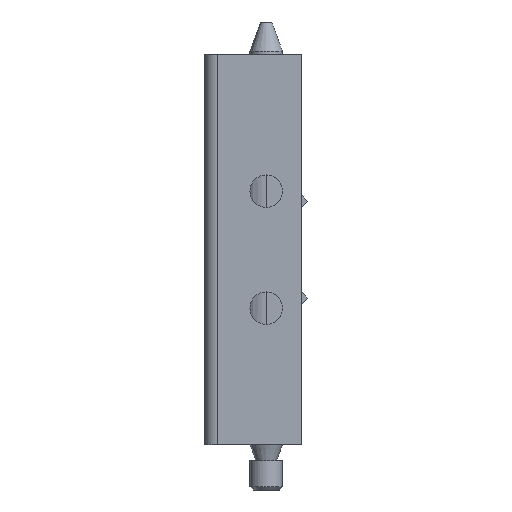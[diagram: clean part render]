
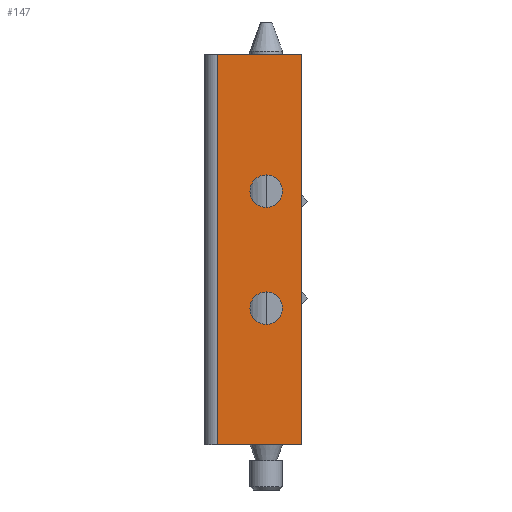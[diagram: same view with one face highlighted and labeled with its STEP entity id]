
A CAD part, front view. The second image highlights one B-rep face of the part: STEP entity #147.
In plain terms, the highlighted planar face has unit normal (0, -1, 0).
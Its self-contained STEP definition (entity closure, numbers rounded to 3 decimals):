
#97 = EDGE_LOOP ( 'NONE', ( #170, #145 ) ) ;
#127 = ORIENTED_EDGE ( 'NONE', *, *, #204, .F. ) ;
#129 = ORIENTED_EDGE ( 'NONE', *, *, #146, .F. ) ;
#131 = VERTEX_POINT ( 'NONE', #11772 ) ;
#133 = ORIENTED_EDGE ( 'NONE', *, *, #13769, .F. ) ;
#139 = EDGE_LOOP ( 'NONE', ( #199, #129 ) ) ;
#145 = ORIENTED_EDGE ( 'NONE', *, *, #168, .F. ) ;
#146 = EDGE_CURVE ( 'NONE', #11476, #11475, #11815, .T. ) ;
#147 = ADVANCED_FACE ( 'NONE', ( #11807, #11822, #11805 ), #11823, .F. ) ;
#168 = EDGE_CURVE ( 'NONE', #11470, #11471, #11894, .T. ) ;
#170 = ORIENTED_EDGE ( 'NONE', *, *, #11519, .F. ) ;
#184 = EDGE_CURVE ( 'NONE', #13762, #13781, #11868, .T. ) ;
#195 = EDGE_CURVE ( 'NONE', #13781, #131, #11920, .T. ) ;
#199 = ORIENTED_EDGE ( 'NONE', *, *, #11463, .F. ) ;
#204 = EDGE_CURVE ( 'NONE', #13752, #131, #11897, .T. ) ;
#205 = ORIENTED_EDGE ( 'NONE', *, *, #195, .T. ) ;
#209 = EDGE_LOOP ( 'NONE', ( #205, #127, #133, #233 ) ) ;
#233 = ORIENTED_EDGE ( 'NONE', *, *, #184, .T. ) ;
#6474 = CARTESIAN_POINT ( 'NONE',  ( -5.5, -1.5, 18.5 ) ) ;
#6488 = CARTESIAN_POINT ( 'NONE',  ( -5.5, -1.5, 23.5 ) ) ;
#6517 = DIRECTION ( 'NONE',  ( 1., 0., 0. ) ) ;
#6518 = DIRECTION ( 'NONE',  ( 0., -1., 0. ) ) ;
#6519 = CARTESIAN_POINT ( 'NONE',  ( -5.5, -1.5, 39. ) ) ;
#6520 = AXIS2_PLACEMENT_3D ( 'NONE', #6519, #6518, #6517 ) ;
#6521 = CIRCLE ( 'NONE', #6520, 2.5 ) ;
#6563 = CARTESIAN_POINT ( 'NONE',  ( -5.5, -1.5, 36.5 ) ) ;
#6564 = CARTESIAN_POINT ( 'NONE',  ( -5.5, -1.5, 41.5 ) ) ;
#6599 = DIRECTION ( 'NONE',  ( -1., 0., 0. ) ) ;
#6600 = DIRECTION ( 'NONE',  ( 0., -1., 0. ) ) ;
#6601 = CARTESIAN_POINT ( 'NONE',  ( -5.5, -1.5, 21. ) ) ;
#6607 = AXIS2_PLACEMENT_3D ( 'NONE', #6601, #6600, #6599 ) ;
#6611 = CIRCLE ( 'NONE', #6607, 2.5 ) ;
#9133 = DIRECTION ( 'NONE',  ( 1., 0., 0. ) ) ;
#9134 = VECTOR ( 'NONE', #9133, 1000. ) ;
#9135 = CARTESIAN_POINT ( 'NONE',  ( 0., -1.5, 60. ) ) ;
#9136 = LINE ( 'NONE', #9135, #9134 ) ;
#9410 = CARTESIAN_POINT ( 'NONE',  ( -13., -1.5, 60. ) ) ;
#9416 = CARTESIAN_POINT ( 'NONE',  ( 0., -1.5, 60. ) ) ;
#9446 = CARTESIAN_POINT ( 'NONE',  ( -13., -1.5, 0. ) ) ;
#11463 = EDGE_CURVE ( 'NONE', #11475, #11476, #6521, .T. ) ;
#11470 = VERTEX_POINT ( 'NONE', #6474 ) ;
#11471 = VERTEX_POINT ( 'NONE', #6488 ) ;
#11475 = VERTEX_POINT ( 'NONE', #6564 ) ;
#11476 = VERTEX_POINT ( 'NONE', #6563 ) ;
#11519 = EDGE_CURVE ( 'NONE', #11471, #11470, #6611, .T. ) ;
#11772 = CARTESIAN_POINT ( 'NONE',  ( 0., -1.5, 0. ) ) ;
#11802 = DIRECTION ( 'NONE',  ( 1., 0., 0. ) ) ;
#11803 = DIRECTION ( 'NONE',  ( 0., -1., 0. ) ) ;
#11805 = FACE_OUTER_BOUND ( 'NONE', #209, .T. ) ;
#11807 = FACE_BOUND ( 'NONE', #97, .T. ) ;
#11808 = CARTESIAN_POINT ( 'NONE',  ( 0., -1.5, 60. ) ) ;
#11813 = CARTESIAN_POINT ( 'NONE',  ( -5.5, -1.5, 39. ) ) ;
#11814 = AXIS2_PLACEMENT_3D ( 'NONE', #11813, #11803, #11802 ) ;
#11815 = CIRCLE ( 'NONE', #11814, 2.5 ) ;
#11819 = AXIS2_PLACEMENT_3D ( 'NONE', #11808, #11861, #11860 ) ;
#11822 = FACE_BOUND ( 'NONE', #139, .T. ) ;
#11823 = PLANE ( 'NONE',  #11819 ) ;
#11860 = DIRECTION ( 'NONE',  ( -1., 0., 0. ) ) ;
#11861 = DIRECTION ( 'NONE',  ( 0., 1., 0. ) ) ;
#11868 = LINE ( 'NONE', #11928, #11927 ) ;
#11882 = DIRECTION ( 'NONE',  ( -1., 0., 0. ) ) ;
#11883 = DIRECTION ( 'NONE',  ( 0., -1., 0. ) ) ;
#11884 = CARTESIAN_POINT ( 'NONE',  ( -5.5, -1.5, 21. ) ) ;
#11885 = AXIS2_PLACEMENT_3D ( 'NONE', #11884, #11883, #11882 ) ;
#11894 = CIRCLE ( 'NONE', #11885, 2.5 ) ;
#11897 = LINE ( 'NONE', #11912, #11961 ) ;
#11901 = DIRECTION ( 'NONE',  ( 1., 0., 0. ) ) ;
#11902 = VECTOR ( 'NONE', #11901, 1000. ) ;
#11907 = CARTESIAN_POINT ( 'NONE',  ( 0., -1.5, 0. ) ) ;
#11911 = DIRECTION ( 'NONE',  ( 0., 0., -1. ) ) ;
#11912 = CARTESIAN_POINT ( 'NONE',  ( 0., -1.5, 60. ) ) ;
#11920 = LINE ( 'NONE', #11907, #11902 ) ;
#11926 = DIRECTION ( 'NONE',  ( 0., 0., -1. ) ) ;
#11927 = VECTOR ( 'NONE', #11926, 1000. ) ;
#11928 = CARTESIAN_POINT ( 'NONE',  ( -13., -1.5, 60. ) ) ;
#11961 = VECTOR ( 'NONE', #11911, 1000. ) ;
#13752 = VERTEX_POINT ( 'NONE', #9416 ) ;
#13762 = VERTEX_POINT ( 'NONE', #9410 ) ;
#13769 = EDGE_CURVE ( 'NONE', #13762, #13752, #9136, .T. ) ;
#13781 = VERTEX_POINT ( 'NONE', #9446 ) ;
